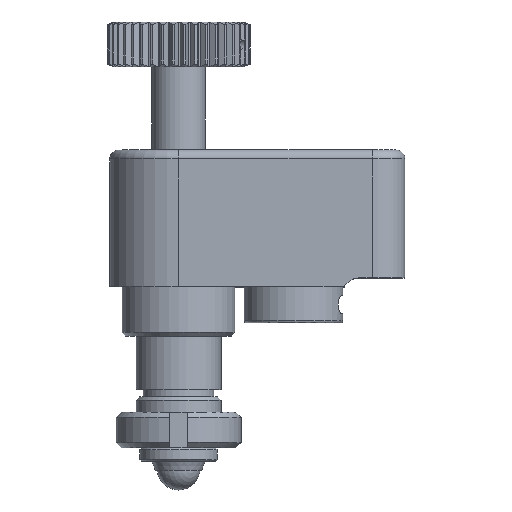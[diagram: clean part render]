
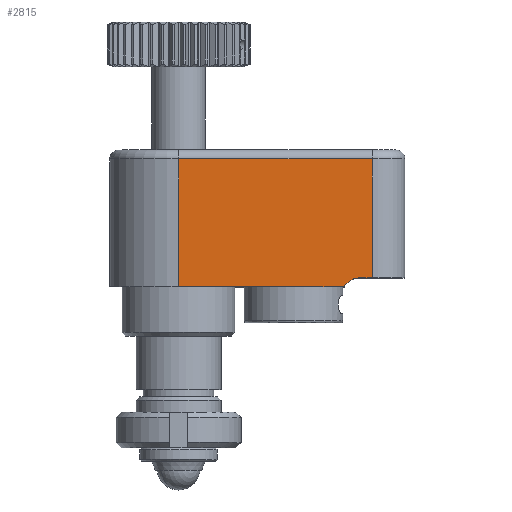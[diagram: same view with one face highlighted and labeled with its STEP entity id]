
A CAD part, top view. The second image highlights one B-rep face of the part: STEP entity #2815.
In plain terms, the highlighted planar face has unit normal (0, 0, 1).
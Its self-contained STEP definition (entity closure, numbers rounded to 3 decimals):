
#2281=PLANE('',#13430);
#2815=ADVANCED_FACE('',(#3660),#2281,.T.);
#3660=FACE_OUTER_BOUND('',#4247,.T.);
#4247=EDGE_LOOP('',(#6283,#6284,#6285,#6286,#6287,#6288));
#5662=CIRCLE('',#13428,2.);
#6283=ORIENTED_EDGE('',*,*,#10609,.F.);
#6284=ORIENTED_EDGE('',*,*,#10626,.T.);
#6285=ORIENTED_EDGE('',*,*,#10594,.T.);
#6286=ORIENTED_EDGE('',*,*,#10568,.T.);
#6287=ORIENTED_EDGE('',*,*,#10625,.T.);
#6288=ORIENTED_EDGE('',*,*,#10597,.T.);
#9427=VERTEX_POINT('',#17953);
#9428=VERTEX_POINT('',#17955);
#9442=VERTEX_POINT('',#17990);
#9448=VERTEX_POINT('',#18009);
#9450=VERTEX_POINT('',#18012);
#9461=VERTEX_POINT('',#18035);
#10568=EDGE_CURVE('',#9428,#9427,#12194,.T.);
#10594=EDGE_CURVE('',#9442,#9428,#12209,.T.);
#10597=EDGE_CURVE('',#9450,#9448,#12211,.T.);
#10609=EDGE_CURVE('',#9461,#9448,#12219,.T.);
#10625=EDGE_CURVE('',#9427,#9450,#5662,.T.);
#10626=EDGE_CURVE('',#9461,#9442,#12231,.T.);
#12194=LINE('',#17954,#12780);
#12209=LINE('',#18005,#12795);
#12211=LINE('',#18011,#12797);
#12219=LINE('',#18036,#12805);
#12231=LINE('',#18065,#12817);
#12780=VECTOR('',#14551,1.);
#12795=VECTOR('',#14598,1.);
#12797=VECTOR('',#14604,1.);
#12805=VECTOR('',#14622,1.);
#12817=VECTOR('',#14664,1.);
#13428=AXIS2_PLACEMENT_3D('',#18063,#14660,#14661);
#13430=AXIS2_PLACEMENT_3D('',#18066,#14665,#14666);
#14551=DIRECTION('',(1.,0.,0.));
#14598=DIRECTION('',(0.,-1.,0.));
#14604=DIRECTION('',(1.,0.,0.));
#14622=DIRECTION('',(0.,-1.,0.));
#14660=DIRECTION('',(0.,0.,-1.));
#14661=DIRECTION('',(1.,0.,0.));
#14664=DIRECTION('',(-1.,0.,0.));
#14665=DIRECTION('',(0.,0.,1.));
#14666=DIRECTION('',(-1.,0.,0.));
#17953=CARTESIAN_POINT('',(10.2,-0.1,7.7));
#17954=CARTESIAN_POINT('',(12.,-0.1,7.7));
#17955=CARTESIAN_POINT('',(-8.3,-0.1,7.7));
#17990=CARTESIAN_POINT('',(-8.3,14.2,7.7));
#18005=CARTESIAN_POINT('',(-8.3,7.6,7.7));
#18009=CARTESIAN_POINT('',(13.36,0.9,7.7));
#18011=CARTESIAN_POINT('',(16.64,0.9,7.7));
#18012=CARTESIAN_POINT('',(11.932,0.9,7.7));
#18035=CARTESIAN_POINT('',(13.36,14.2,7.7));
#18036=CARTESIAN_POINT('',(13.36,15.2,7.7));
#18063=CARTESIAN_POINT('',(11.932,-1.1,7.7));
#18065=CARTESIAN_POINT('',(12.,14.2,7.7));
#18066=CARTESIAN_POINT('',(12.,15.2,7.7));
